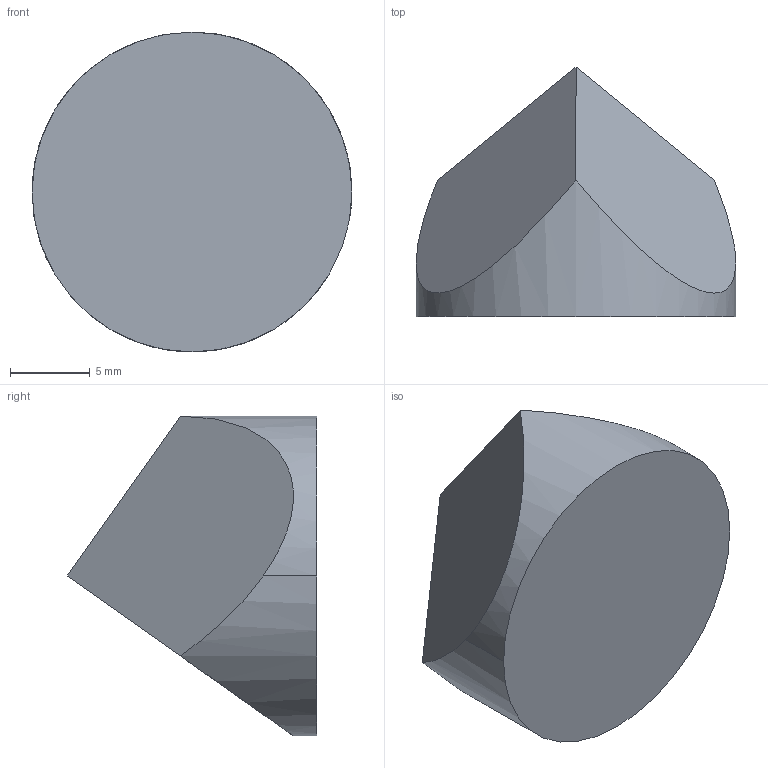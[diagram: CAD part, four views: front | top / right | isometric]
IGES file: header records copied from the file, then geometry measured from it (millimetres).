
Global section: file name: No Iges File Name specified; native system: AutoDesk Inventor R12.0; preprocessor: AutoDesk Inventor Iges Exporter R12.0; date: 20090528.085140; units: millimetre
Bounding box: 20 x 15.6 x 20 mm (x, y, z)
Volume: 2451.4 mm3; surface area: 1103.6 mm2
Topology: 1 solids, 1 shells, 6 faces, 12 edges, 8 vertices
Faces by surface type: plane 4, cylinder 2
